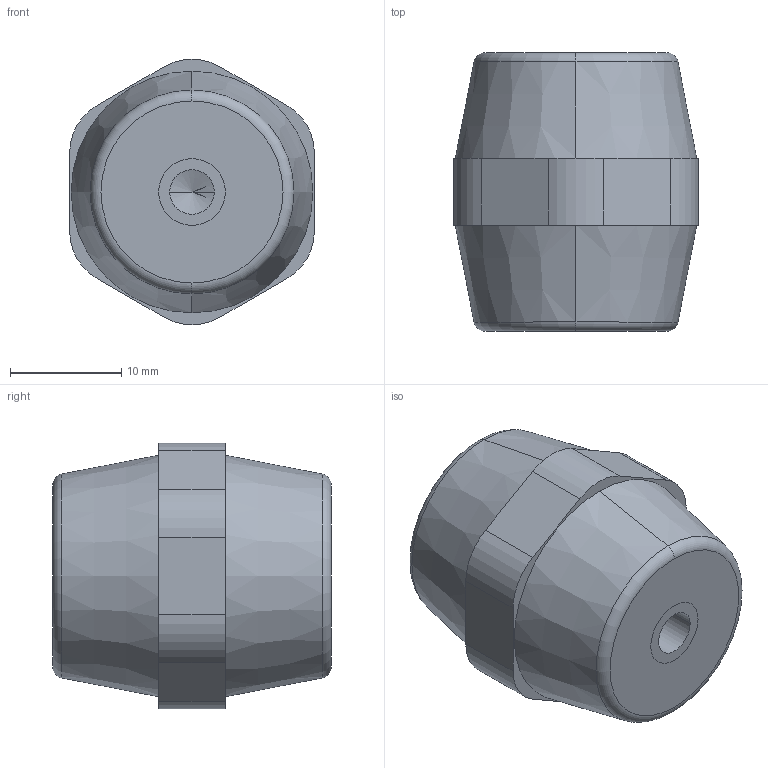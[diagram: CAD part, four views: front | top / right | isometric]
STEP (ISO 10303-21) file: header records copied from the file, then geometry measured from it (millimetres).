
FILE_DESCRIPTION (( 'STEP AP203' ), '1' );
FILE_NAME ('Isolatore 2801 22X25-M4.STEP', '2024-10-28T22:44:13', ( '' ), ( '' ), 'SwSTEP 2.0', 'SolidWorks 2020', '' );
FILE_SCHEMA (( 'CONFIG_CONTROL_DESIGN' ));
Length unit declared in the file: millimetre
Products named in the file (1): Isolatore 2801 22X25-M4
Bounding box: 22 x 25 x 23.86 mm (x, y, z)
Volume: 8182.9 mm3; surface area: 3237.8 mm2
Topology: 3 solids, 3 shells, 75 faces, 167 edges, 100 vertices
Faces by surface type: cylinder 35, plane 20, cone 16, torus 4
Entity records: 2088 total; most frequent: DIRECTION 393, CARTESIAN_POINT 331, ORIENTED_EDGE 310, AXIS2_PLACEMENT_3D 162, EDGE_CURVE 155, VERTEX_POINT 100, EDGE_LOOP 89, CIRCLE 86
